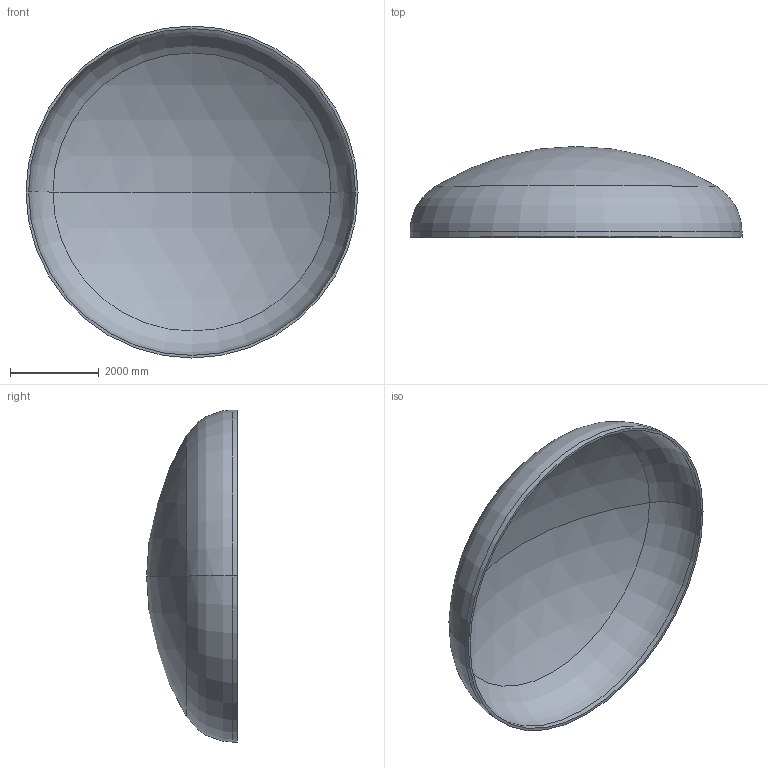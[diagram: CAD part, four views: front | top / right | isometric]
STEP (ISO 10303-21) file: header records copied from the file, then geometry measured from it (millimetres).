
FILE_DESCRIPTION (( 'STEP AP203' ), '1' );
FILE_NAME ('DIN 28013 Korbbogenform_-_Boden DIN 28013 - 7500 x 120 - I - s=58.step', '2016-07-04T10:55:01', ( '' ), ( '' ), 'SwSTEP 2.0', 'SolidWorks 2013', '' );
FILE_SCHEMA (( 'CONFIG_CONTROL_DESIGN' ));
Length unit declared in the file: millimetre
Products named in the file (1): DIN 28013 Korbbogenform_-_Boden DIN 28013 - 7500 x 120 - I - s=58
Bounding box: 7500 x 2050.33 x 7500 mm (x, y, z)
Volume: 3675478575.3 mm3; surface area: 128103661.1 mm2
Topology: 1 solids, 1 shells, 13 faces, 24 edges, 14 vertices
Faces by surface type: torus 4, cylinder 4, sphere 4, plane 1
Entity records: 407 total; most frequent: DIRECTION 72, CARTESIAN_POINT 52, ORIENTED_EDGE 48, AXIS2_PLACEMENT_3D 34, EDGE_CURVE 24, CIRCLE 20, VERTEX_POINT 14, EDGE_LOOP 14
